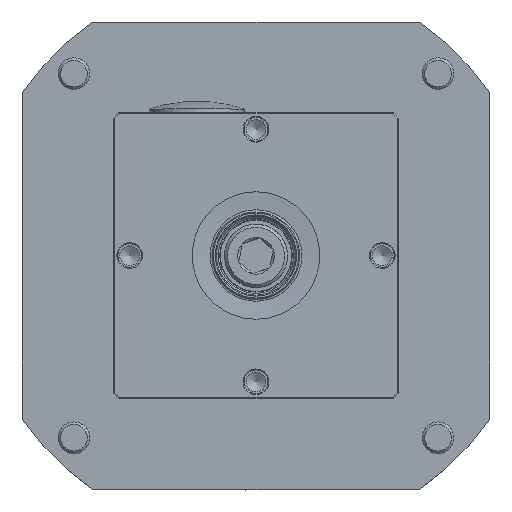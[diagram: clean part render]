
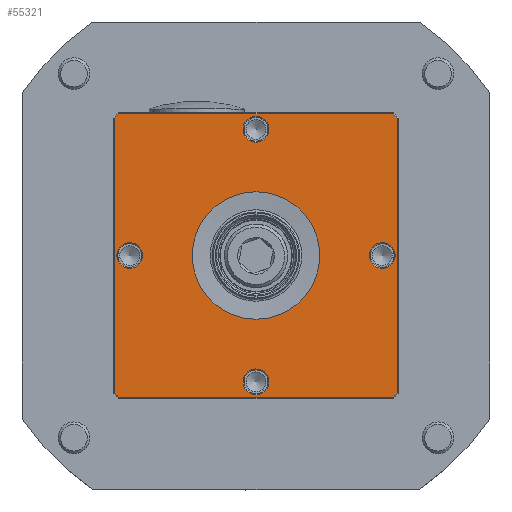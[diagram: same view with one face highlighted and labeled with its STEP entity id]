
A CAD part, top view. The second image highlights one B-rep face of the part: STEP entity #55321.
In plain terms, the highlighted planar face has unit normal (0, 0, 1).
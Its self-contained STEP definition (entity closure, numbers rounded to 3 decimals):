
#287 = EDGE_CURVE ( 'NONE', #41797, #22264, #27432, .T. ) ;
#764 = VERTEX_POINT ( 'NONE', #2348 ) ;
#947 = EDGE_CURVE ( 'NONE', #21552, #21552, #56260, .T. ) ;
#1494 = CIRCLE ( 'NONE', #8263, 16.094 ) ;
#1497 = CARTESIAN_POINT ( 'NONE',  ( 0., 0., 45. ) ) ;
#2179 = FACE_BOUND ( 'NONE', #17776, .T. ) ;
#2348 = CARTESIAN_POINT ( 'NONE',  ( 35.75, -34.598, 45. ) ) ;
#2697 = EDGE_LOOP ( 'NONE', ( #32404 ) ) ;
#3360 = CARTESIAN_POINT ( 'NONE',  ( -16.094, 0., 45. ) ) ;
#3901 = CARTESIAN_POINT ( 'NONE',  ( 34.699, -35.75, 45. ) ) ;
#5125 = AXIS2_PLACEMENT_3D ( 'NONE', #59097, #49708, #17743 ) ;
#5343 = ORIENTED_EDGE ( 'NONE', *, *, #30734, .F. ) ;
#7533 = DIRECTION ( 'NONE',  ( 1., 0., 0. ) ) ;
#8263 = AXIS2_PLACEMENT_3D ( 'NONE', #49836, #21801, #48947 ) ;
#8388 = CIRCLE ( 'NONE', #35432, 49.75 ) ;
#8985 = EDGE_CURVE ( 'NONE', #22264, #38500, #43828, .T. ) ;
#10500 = DIRECTION ( 'NONE',  ( 1., 0., 0. ) ) ;
#10665 = CARTESIAN_POINT ( 'NONE',  ( 35.75, 34.699, 45. ) ) ;
#11704 = AXIS2_PLACEMENT_3D ( 'NONE', #48636, #12158, #16085 ) ;
#11907 = CARTESIAN_POINT ( 'NONE',  ( 3.25, -31.877, 45. ) ) ;
#12158 = DIRECTION ( 'NONE',  ( 0., 0., 1. ) ) ;
#14314 = ORIENTED_EDGE ( 'NONE', *, *, #48637, .T. ) ;
#14542 = CARTESIAN_POINT ( 'NONE',  ( -35.75, -34.699, 45. ) ) ;
#14827 = DIRECTION ( 'NONE',  ( 0., -1., 0. ) ) ;
#14966 = ORIENTED_EDGE ( 'NONE', *, *, #40230, .T. ) ;
#15699 = CARTESIAN_POINT ( 'NONE',  ( 0., 0., 45. ) ) ;
#16042 = CARTESIAN_POINT ( 'NONE',  ( 31.877, 0., 45. ) ) ;
#16085 = DIRECTION ( 'NONE',  ( 1., 0., 0. ) ) ;
#16969 = FACE_BOUND ( 'NONE', #39340, .T. ) ;
#17211 = DIRECTION ( 'NONE',  ( 1., 0., 0. ) ) ;
#17743 = DIRECTION ( 'NONE',  ( 1., 0., 0. ) ) ;
#17776 = EDGE_LOOP ( 'NONE', ( #14966 ) ) ;
#18426 = VERTEX_POINT ( 'NONE', #31968 ) ;
#18782 = AXIS2_PLACEMENT_3D ( 'NONE', #55006, #32384, #50746 ) ;
#19281 = DIRECTION ( 'NONE',  ( 0., 0., 1. ) ) ;
#19323 = AXIS2_PLACEMENT_3D ( 'NONE', #42520, #28332, #32608 ) ;
#19386 = LINE ( 'NONE', #14542, #24608 ) ;
#20005 = DIRECTION ( 'NONE',  ( 1., 0., 0. ) ) ;
#20549 = DIRECTION ( 'NONE',  ( 0., 0., 1. ) ) ;
#21227 = FACE_BOUND ( 'NONE', #35556, .T. ) ;
#21232 = VERTEX_POINT ( 'NONE', #3360 ) ;
#21552 = VERTEX_POINT ( 'NONE', #11907 ) ;
#21568 = VERTEX_POINT ( 'NONE', #46143 ) ;
#21801 = DIRECTION ( 'NONE',  ( 0., 0., -1. ) ) ;
#22264 = VERTEX_POINT ( 'NONE', #31881 ) ;
#22763 = VERTEX_POINT ( 'NONE', #47469 ) ;
#23974 = VERTEX_POINT ( 'NONE', #46277 ) ;
#24608 = VECTOR ( 'NONE', #14827, 1000. ) ;
#25169 = FACE_OUTER_BOUND ( 'NONE', #32983, .T. ) ;
#26051 = DIRECTION ( 'NONE',  ( -1., 0., 0. ) ) ;
#27157 = DIRECTION ( 'NONE',  ( 0., 0., 1. ) ) ;
#27432 = CIRCLE ( 'NONE', #35177, 49.75 ) ;
#27967 = CIRCLE ( 'NONE', #19323, 3.25 ) ;
#28332 = DIRECTION ( 'NONE',  ( 0., 0., 1. ) ) ;
#28709 = ORIENTED_EDGE ( 'NONE', *, *, #47611, .T. ) ;
#29332 = DIRECTION ( 'NONE',  ( 1., 0., 0. ) ) ;
#29496 = ORIENTED_EDGE ( 'NONE', *, *, #48706, .F. ) ;
#30014 = FACE_BOUND ( 'NONE', #44265, .T. ) ;
#30231 = EDGE_CURVE ( 'NONE', #23974, #23974, #44350, .T. ) ;
#30306 = PLANE ( 'NONE',  #11704 ) ;
#30695 = VERTEX_POINT ( 'NONE', #39249 ) ;
#30734 = EDGE_CURVE ( 'NONE', #22763, #22763, #27967, .T. ) ;
#31881 = CARTESIAN_POINT ( 'NONE',  ( 34.598, 35.75, 45. ) ) ;
#31968 = CARTESIAN_POINT ( 'NONE',  ( -34.598, -35.75, 45. ) ) ;
#32217 = CARTESIAN_POINT ( 'NONE',  ( -34.598, 35.75, 45. ) ) ;
#32384 = DIRECTION ( 'NONE',  ( 0., 0., 1. ) ) ;
#32404 = ORIENTED_EDGE ( 'NONE', *, *, #30231, .F. ) ;
#32558 = CIRCLE ( 'NONE', #40271, 3.25 ) ;
#32608 = DIRECTION ( 'NONE',  ( 1., 0., 0. ) ) ;
#32909 = VECTOR ( 'NONE', #34222, 1000. ) ;
#32983 = EDGE_LOOP ( 'NONE', ( #50335, #43807, #48427, #28709, #34964, #14314, #55971, #35618 ) ) ;
#34222 = DIRECTION ( 'NONE',  ( 0., 1., 0. ) ) ;
#34468 = VERTEX_POINT ( 'NONE', #57061 ) ;
#34964 = ORIENTED_EDGE ( 'NONE', *, *, #42256, .T. ) ;
#35177 = AXIS2_PLACEMENT_3D ( 'NONE', #38577, #19281, #10500 ) ;
#35405 = FACE_BOUND ( 'NONE', #2697, .T. ) ;
#35432 = AXIS2_PLACEMENT_3D ( 'NONE', #15699, #20549, #43763 ) ;
#35556 = EDGE_LOOP ( 'NONE', ( #29496 ) ) ;
#35618 = ORIENTED_EDGE ( 'NONE', *, *, #287, .T. ) ;
#36478 = EDGE_CURVE ( 'NONE', #38500, #41324, #54407, .T. ) ;
#38349 = CIRCLE ( 'NONE', #46041, 49.75 ) ;
#38402 = DIRECTION ( 'NONE',  ( 0., 0., 1. ) ) ;
#38500 = VERTEX_POINT ( 'NONE', #32217 ) ;
#38577 = CARTESIAN_POINT ( 'NONE',  ( 0., 0., 45. ) ) ;
#38587 = AXIS2_PLACEMENT_3D ( 'NONE', #16042, #38402, #20005 ) ;
#38971 = DIRECTION ( 'NONE',  ( 0., 0., 1. ) ) ;
#39249 = CARTESIAN_POINT ( 'NONE',  ( 34.598, -35.75, 45. ) ) ;
#39340 = EDGE_LOOP ( 'NONE', ( #45014 ) ) ;
#40230 = EDGE_CURVE ( 'NONE', #21232, #21232, #1494, .T. ) ;
#40271 = AXIS2_PLACEMENT_3D ( 'NONE', #49169, #27157, #7533 ) ;
#40754 = LINE ( 'NONE', #3901, #45582 ) ;
#41324 = VERTEX_POINT ( 'NONE', #59693 ) ;
#41797 = VERTEX_POINT ( 'NONE', #49251 ) ;
#42256 = EDGE_CURVE ( 'NONE', #18426, #30695, #40754, .T. ) ;
#42520 = CARTESIAN_POINT ( 'NONE',  ( -31.877, 0., 45. ) ) ;
#43160 = EDGE_CURVE ( 'NONE', #41324, #21568, #19386, .T. ) ;
#43201 = VECTOR ( 'NONE', #26051, 1000. ) ;
#43763 = DIRECTION ( 'NONE',  ( 1., 0., 0. ) ) ;
#43807 = ORIENTED_EDGE ( 'NONE', *, *, #36478, .T. ) ;
#43828 = LINE ( 'NONE', #58596, #43201 ) ;
#44265 = EDGE_LOOP ( 'NONE', ( #5343 ) ) ;
#44350 = CIRCLE ( 'NONE', #38587, 3.25 ) ;
#45014 = ORIENTED_EDGE ( 'NONE', *, *, #947, .F. ) ;
#45582 = VECTOR ( 'NONE', #17211, 1000. ) ;
#46041 = AXIS2_PLACEMENT_3D ( 'NONE', #1497, #38971, #29332 ) ;
#46143 = CARTESIAN_POINT ( 'NONE',  ( -35.75, -34.598, 45. ) ) ;
#46277 = CARTESIAN_POINT ( 'NONE',  ( 35.127, 0., 45. ) ) ;
#47469 = CARTESIAN_POINT ( 'NONE',  ( -28.627, 0., 45. ) ) ;
#47611 = EDGE_CURVE ( 'NONE', #21568, #18426, #38349, .T. ) ;
#48427 = ORIENTED_EDGE ( 'NONE', *, *, #43160, .T. ) ;
#48636 = CARTESIAN_POINT ( 'NONE',  ( 0., 50., 45. ) ) ;
#48637 = EDGE_CURVE ( 'NONE', #30695, #764, #8388, .T. ) ;
#48706 = EDGE_CURVE ( 'NONE', #34468, #34468, #32558, .T. ) ;
#48947 = DIRECTION ( 'NONE',  ( -1., 0., 0. ) ) ;
#49169 = CARTESIAN_POINT ( 'NONE',  ( 0., 31.877, 45. ) ) ;
#49251 = CARTESIAN_POINT ( 'NONE',  ( 35.75, 34.598, 45. ) ) ;
#49708 = DIRECTION ( 'NONE',  ( 0., 0., 1. ) ) ;
#49836 = CARTESIAN_POINT ( 'NONE',  ( 0., 0., 45. ) ) ;
#50335 = ORIENTED_EDGE ( 'NONE', *, *, #8985, .T. ) ;
#50746 = DIRECTION ( 'NONE',  ( 1., 0., 0. ) ) ;
#54407 = CIRCLE ( 'NONE', #18782, 49.75 ) ;
#55006 = CARTESIAN_POINT ( 'NONE',  ( 0., 0., 45. ) ) ;
#55248 = EDGE_CURVE ( 'NONE', #764, #41797, #56834, .T. ) ;
#55321 = ADVANCED_FACE ( 'NONE', ( #25169, #21227, #30014, #16969, #35405, #2179 ), #30306, .T. ) ;
#55971 = ORIENTED_EDGE ( 'NONE', *, *, #55248, .T. ) ;
#56260 = CIRCLE ( 'NONE', #5125, 3.25 ) ;
#56834 = LINE ( 'NONE', #10665, #32909 ) ;
#57061 = CARTESIAN_POINT ( 'NONE',  ( 3.25, 31.877, 45. ) ) ;
#58596 = CARTESIAN_POINT ( 'NONE',  ( -34.699, 35.75, 45. ) ) ;
#59097 = CARTESIAN_POINT ( 'NONE',  ( 0., -31.877, 45. ) ) ;
#59693 = CARTESIAN_POINT ( 'NONE',  ( -35.75, 34.598, 45. ) ) ;
